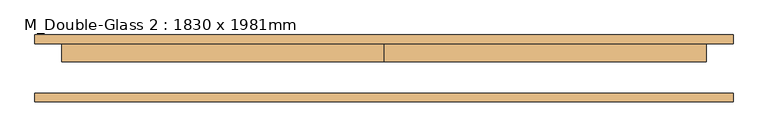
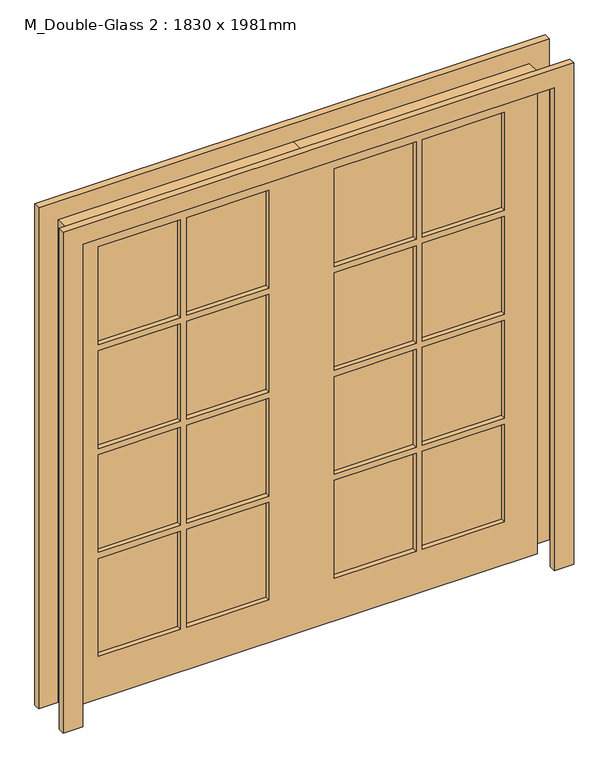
"""IFC4 building model written with IfcOpenShell, lengths in millimetres: door geometry, M_Double-Glass 2 : 1830 x 1981mm."""

from ifc_helpers import new_model, si_unit, frame, origin, place, context, project, spatial, polyline, outline, extrude, source, transform, mapped, element, save


def m_double_glass_2_1830_x_1981mm_ddff6fa9(model_context):
    return source(origin(), model_context, "Body", "SweptSolid", [
        extrude(outline(polyline([(470.0, 50.95), (788.0, 50.95), (788.0, 38.25), (470.0, 38.25), (470.0, 50.95)])), frame((0.0, 0.0, 1454.5), z_axis=(0.0, 0.0, 1.0), x_axis=(1.0, 0.0, 0.0)), (0.0, 0.0, 1.0), 401.5),
        extrude(outline(polyline([(127.0, 50.95), (445.0, 50.95), (445.0, 38.25), (127.0, 38.25), (127.0, 50.95)])), frame((0.0, 0.0, 1454.5), z_axis=(0.0, 0.0, 1.0), x_axis=(1.0, 0.0, 0.0)), (0.0, 0.0, 1.0), 401.5),
        extrude(outline(polyline([(-445.0, 50.95), (-127.0, 50.95), (-127.0, 38.25), (-445.0, 38.25), (-445.0, 50.95)])), frame((0.0, 0.0, 1454.5), z_axis=(0.0, 0.0, 1.0), x_axis=(1.0, 0.0, 0.0)), (0.0, 0.0, 1.0), 401.5),
        extrude(outline(polyline([(-788.0, 50.95), (-470.0, 50.95), (-470.0, 38.25), (-788.0, 38.25), (-788.0, 50.95)])), frame((0.0, 0.0, 1454.5), z_axis=(0.0, 0.0, 1.0), x_axis=(1.0, 0.0, 0.0)), (0.0, 0.0, 1.0), 401.5),
        extrude(outline(polyline([(-788.0, 50.95), (-470.0, 50.95), (-470.0, 38.25), (-788.0, 38.25), (-788.0, 50.95)])), frame((0.0, 0.0, 1028.0), z_axis=(0.0, 0.0, 1.0), x_axis=(1.0, 0.0, 0.0)), (0.0, 0.0, 1.0), 401.5),
        extrude(outline(polyline([(-445.0, 50.95), (-127.0, 50.95), (-127.0, 38.25), (-445.0, 38.25), (-445.0, 50.95)])), frame((0.0, 0.0, 1028.0), z_axis=(0.0, 0.0, 1.0), x_axis=(1.0, 0.0, 0.0)), (0.0, 0.0, 1.0), 401.5),
        extrude(outline(polyline([(127.0, 50.95), (445.0, 50.95), (445.0, 38.25), (127.0, 38.25), (127.0, 50.95)])), frame((0.0, 0.0, 1028.0), z_axis=(0.0, 0.0, 1.0), x_axis=(1.0, 0.0, 0.0)), (0.0, 0.0, 1.0), 401.5),
        extrude(outline(polyline([(470.0, 50.95), (788.0, 50.95), (788.0, 38.25), (470.0, 38.25), (470.0, 50.95)])), frame((0.0, 0.0, 1028.0), z_axis=(0.0, 0.0, 1.0), x_axis=(1.0, 0.0, 0.0)), (0.0, 0.0, 1.0), 401.5),
        extrude(outline(polyline([(470.0, 50.95), (788.0, 50.95), (788.0, 38.25), (470.0, 38.25), (470.0, 50.95)])), frame((0.0, 0.0, 601.5), z_axis=(0.0, 0.0, 1.0), x_axis=(1.0, 0.0, 0.0)), (0.0, 0.0, 1.0), 401.5),
        extrude(outline(polyline([(127.0, 50.95), (445.0, 50.95), (445.0, 38.25), (127.0, 38.25), (127.0, 50.95)])), frame((0.0, 0.0, 601.5), z_axis=(0.0, 0.0, 1.0), x_axis=(1.0, 0.0, 0.0)), (0.0, 0.0, 1.0), 401.5),
        extrude(outline(polyline([(-445.0, 50.95), (-127.0, 50.95), (-127.0, 38.25), (-445.0, 38.25), (-445.0, 50.95)])), frame((0.0, 0.0, 601.5), z_axis=(0.0, 0.0, 1.0), x_axis=(1.0, 0.0, 0.0)), (0.0, 0.0, 1.0), 401.5),
        extrude(outline(polyline([(-788.0, 50.95), (-470.0, 50.95), (-470.0, 38.25), (-788.0, 38.25), (-788.0, 50.95)])), frame((0.0, 0.0, 601.5), z_axis=(0.0, 0.0, 1.0), x_axis=(1.0, 0.0, 0.0)), (0.0, 0.0, 1.0), 401.5),
        extrude(outline(polyline([(470.0, 50.95), (788.0, 50.95), (788.0, 38.25), (470.0, 38.25), (470.0, 50.95)])), frame((0.0, 0.0, 175.0), z_axis=(0.0, 0.0, 1.0), x_axis=(1.0, 0.0, 0.0)), (0.0, 0.0, 1.0), 401.5),
        extrude(outline(polyline([(127.0, 50.95), (445.0, 50.95), (445.0, 38.25), (127.0, 38.25), (127.0, 50.95)])), frame((0.0, 0.0, 175.0), z_axis=(0.0, 0.0, 1.0), x_axis=(1.0, 0.0, 0.0)), (0.0, 0.0, 1.0), 401.5),
        extrude(outline(polyline([(-445.0, 50.95), (-127.0, 50.95), (-127.0, 38.25), (-445.0, 38.25), (-445.0, 50.95)])), frame((0.0, 0.0, 175.0), z_axis=(0.0, 0.0, 1.0), x_axis=(1.0, 0.0, 0.0)), (0.0, 0.0, 1.0), 401.5),
        extrude(outline(polyline([(-788.0, 50.95), (-470.0, 50.95), (-470.0, 38.25), (-788.0, 38.25), (-788.0, 50.95)])), frame((0.0, 0.0, 175.0), z_axis=(0.0, 0.0, 1.0), x_axis=(1.0, 0.0, 0.0)), (0.0, 0.0, 1.0), 401.5),
        extrude(outline(polyline([(1981.0, 0.0), (1981.0, -915.0), (0.0, -915.0), (0.0, 0.0), (0.0, 915.0), (1981.0, 915.0), (1981.0, 0.0)]), holes=[polyline([(1856.0, 470.0), (1856.0, 788.0), (1454.5, 788.0), (1454.5, 470.0), (1856.0, 470.0)]), polyline([(1856.0, 127.0), (1856.0, 445.0), (1454.5, 445.0), (1454.5, 127.0), (1856.0, 127.0)]), polyline([(1429.5, 470.0), (1429.5, 788.0), (1028.0, 788.0), (1028.0, 470.0), (1429.5, 470.0)]), polyline([(1429.5, 127.0), (1429.5, 445.0), (1028.0, 445.0), (1028.0, 127.0), (1429.5, 127.0)]), polyline([(1003.0, 470.0), (1003.0, 788.0), (601.5, 788.0), (601.5, 470.0), (1003.0, 470.0)]), polyline([(1003.0, 127.0), (1003.0, 445.0), (601.5, 445.0), (601.5, 127.0), (1003.0, 127.0)]), polyline([(576.5, 470.0), (576.5, 788.0), (175.0, 788.0), (175.0, 470.0), (576.5, 470.0)]), polyline([(576.5, 127.0), (576.5, 445.0), (175.0, 445.0), (175.0, 127.0), (576.5, 127.0)]), polyline([(1856.0, -445.0), (1856.0, -127.0), (1454.5, -127.0), (1454.5, -445.0), (1856.0, -445.0)]), polyline([(1429.5, -445.0), (1429.5, -127.0), (1028.0, -127.0), (1028.0, -445.0), (1429.5, -445.0)]), polyline([(1429.5, -470.0), (1028.0, -470.0), (1028.0, -788.0), (1429.5, -788.0), (1429.5, -470.0)]), polyline([(1003.0, -445.0), (1003.0, -127.0), (601.5, -127.0), (601.5, -445.0), (1003.0, -445.0)]), polyline([(1003.0, -470.0), (601.5, -470.0), (601.5, -788.0), (1003.0, -788.0), (1003.0, -470.0)]), polyline([(576.5, -445.0), (576.5, -127.0), (175.0, -127.0), (175.0, -445.0), (576.5, -445.0)]), polyline([(576.5, -788.0), (576.5, -470.0), (175.0, -470.0), (175.0, -788.0), (576.5, -788.0)]), polyline([(1454.5, -470.0), (1454.5, -788.0), (1856.0, -788.0), (1856.0, -470.0), (1454.5, -470.0)])]), frame((0.0, 19.0, 0.0), z_axis=(0.0, 1.0, 0.0), x_axis=(0.0, 0.0, 1.0)), (0.0, 0.0, 1.0), 51.0),
        extrude(outline(polyline([(1981.0, -915.0), (1981.0, 915.0), (0.0, 915.0), (0.0, 991.0), (2057.0, 991.0), (2057.0, -991.0), (0.0, -991.0), (0.0, -915.0), (1981.0, -915.0)])), frame((0.0, -95.0, 0.0), z_axis=(0.0, 1.0, 0.0), x_axis=(0.0, 0.0, 1.0)), (0.0, 0.0, 1.0), 25.0),
        extrude(outline(polyline([(1981.0, -915.0), (1981.0, 915.0), (0.0, 915.0), (0.0, 991.0), (2057.0, 991.0), (2057.0, -991.0), (0.0, -991.0), (0.0, -915.0), (1981.0, -915.0)])), frame((0.0, 70.0, 0.0), z_axis=(0.0, 1.0, 0.0), x_axis=(0.0, 0.0, 1.0)), (0.0, 0.0, 1.0), 25.0),
    ])


if __name__ == "__main__":
    model = new_model("IFC4")
    model_context = context("Model", 3, world=origin())
    ifc_project = project(units=[si_unit("LENGTHUNIT", "METRE", prefix="MILLI")], contexts=[model_context])
    site = spatial("IfcSite", under=ifc_project)
    building = spatial("IfcBuilding", under=site)
    placement = place(None, origin())
    m_double_glass_2_1830_x_1981mm_shape = m_double_glass_2_1830_x_1981mm_ddff6fa9(model_context)
    element("IfcDoor", 1, ObjectType="M_Double-Glass 2 : 1830 x 1981mm", at=placement, inside=building, context=model_context, shape_type="MappedRepresentation", body=[
        mapped(m_double_glass_2_1830_x_1981mm_shape, transform((0.0, 0.0, 0.0), x_axis=(1.0, 0.0, 0.0), y_axis=(0.0, 1.0, 0.0), z_axis=(0.0, 0.0, 1.0))),
    ])
    save(model, "model.ifc")
